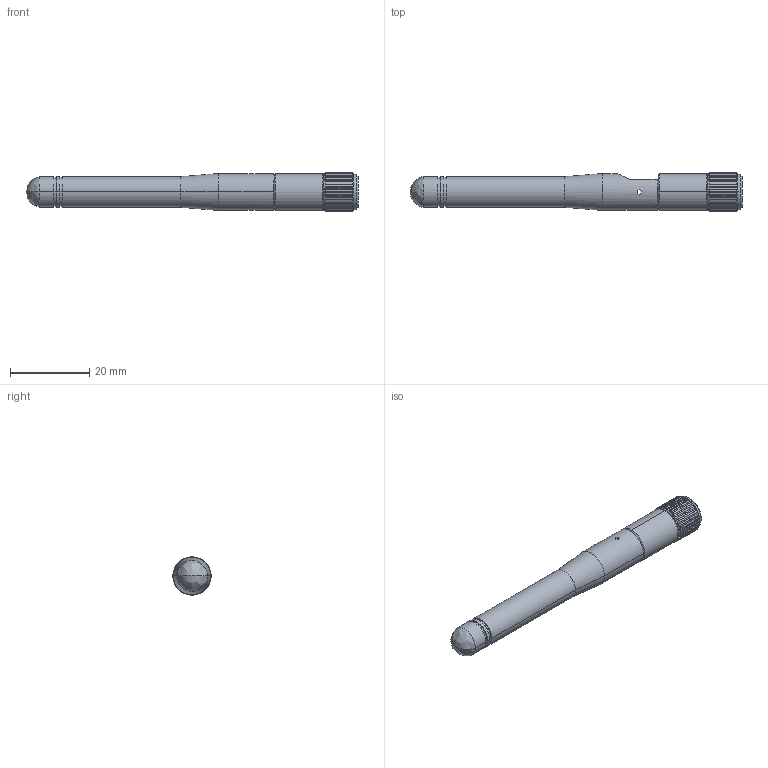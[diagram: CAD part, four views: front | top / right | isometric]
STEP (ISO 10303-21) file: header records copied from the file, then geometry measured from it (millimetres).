
FILE_DESCRIPTION((''),'2;1');
FILE_NAME('X9001091-W3DRMW-FLAT_ASM','2023-10-03T',('gfichot'),(''),'CREO PARAMETRIC BY PTC INC, 2016130','CREO PARAMETRIC BY PTC INC, 2016130','');
FILE_SCHEMA(('CONFIG_CONTROL_DESIGN'));
Length unit declared in the file: millimetre
Products named in the file (3): ANTENNA-BASE; ANTENNA-CAP; X9001091-W3DRMW-FLAT_ASM
Assembly tree (2 placements, depth 2):
  X9001091-W3DRMW-FLAT_ASM
    ANTENNA-BASE
    ANTENNA-CAP
Bounding box: 84 x 9.68 x 9.68 mm (x, y, z)
Volume: 4648.1 mm3; surface area: 2850.4 mm2
Topology: 2 solids, 2 shells, 202 faces, 565 edges, 371 vertices
Faces by surface type: cylinder 97, plane 93, cone 8, bspline 2, torus 2
Entity records: 6719 total; most frequent: CARTESIAN_POINT 1262, DIRECTION 1165, ORIENTED_EDGE 1126, EDGE_CURVE 563, AXIS2_PLACEMENT_3D 406, VERTEX_POINT 371, VECTOR 353, LINE 353
